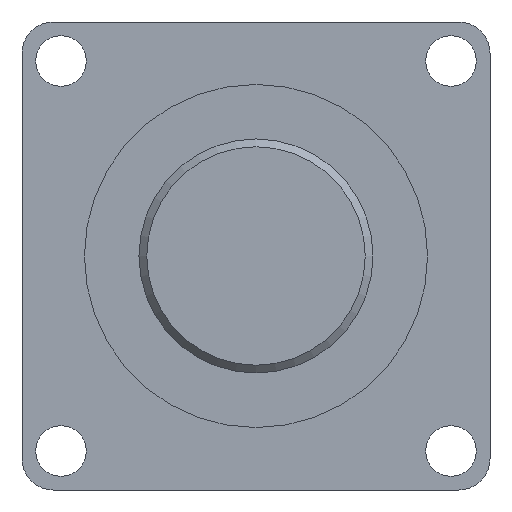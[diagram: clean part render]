
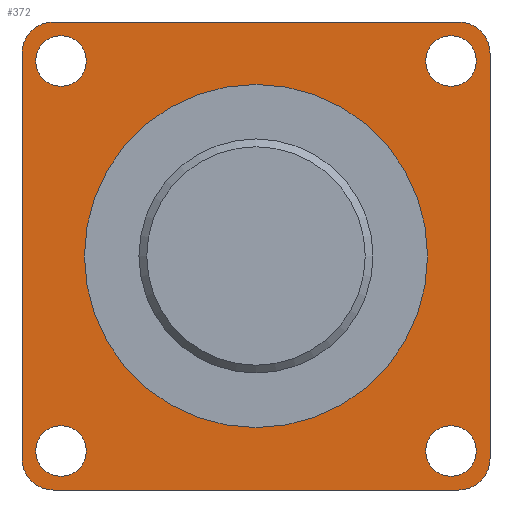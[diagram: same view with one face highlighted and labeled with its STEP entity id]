
A CAD part, front view. The second image highlights one B-rep face of the part: STEP entity #372.
In plain terms, the highlighted planar face has unit normal (0, -1, 0).
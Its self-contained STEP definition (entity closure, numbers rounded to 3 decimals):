
#16=FACE_BOUND('',#63,.T.);
#17=FACE_BOUND('',#64,.T.);
#18=FACE_BOUND('',#65,.T.);
#19=FACE_BOUND('',#66,.T.);
#20=FACE_BOUND('',#67,.T.);
#28=PLANE('',#420);
#39=FACE_OUTER_BOUND('',#62,.T.);
#62=EDGE_LOOP('',(#261,#262,#263,#264,#265,#266,#267,#268));
#63=EDGE_LOOP('',(#269));
#64=EDGE_LOOP('',(#270));
#65=EDGE_LOOP('',(#271));
#66=EDGE_LOOP('',(#272));
#67=EDGE_LOOP('',(#273));
#98=LINE('',#603,#123);
#99=LINE('',#607,#124);
#100=LINE('',#611,#125);
#101=LINE('',#614,#126);
#123=VECTOR('',#478,10.);
#124=VECTOR('',#481,10.);
#125=VECTOR('',#484,10.);
#126=VECTOR('',#487,10.);
#147=CIRCLE('',#419,2.);
#148=CIRCLE('',#421,2.);
#149=CIRCLE('',#422,2.);
#150=CIRCLE('',#423,2.);
#151=CIRCLE('',#424,1.621);
#152=CIRCLE('',#425,1.621);
#153=CIRCLE('',#426,1.621);
#154=CIRCLE('',#427,1.621);
#155=CIRCLE('',#428,11.);
#174=VERTEX_POINT('',#596);
#175=VERTEX_POINT('',#598);
#176=VERTEX_POINT('',#602);
#177=VERTEX_POINT('',#604);
#178=VERTEX_POINT('',#606);
#179=VERTEX_POINT('',#608);
#180=VERTEX_POINT('',#610);
#181=VERTEX_POINT('',#612);
#182=VERTEX_POINT('',#615);
#183=VERTEX_POINT('',#617);
#184=VERTEX_POINT('',#619);
#185=VERTEX_POINT('',#621);
#186=VERTEX_POINT('',#623);
#208=EDGE_CURVE('',#174,#175,#147,.T.);
#210=EDGE_CURVE('',#176,#174,#98,.T.);
#211=EDGE_CURVE('',#177,#176,#148,.T.);
#212=EDGE_CURVE('',#178,#177,#99,.T.);
#213=EDGE_CURVE('',#179,#178,#149,.T.);
#214=EDGE_CURVE('',#180,#179,#100,.T.);
#215=EDGE_CURVE('',#181,#180,#150,.T.);
#216=EDGE_CURVE('',#175,#181,#101,.T.);
#217=EDGE_CURVE('',#182,#182,#151,.T.);
#218=EDGE_CURVE('',#183,#183,#152,.T.);
#219=EDGE_CURVE('',#184,#184,#153,.T.);
#220=EDGE_CURVE('',#185,#185,#154,.T.);
#221=EDGE_CURVE('',#186,#186,#155,.T.);
#261=ORIENTED_EDGE('',*,*,#208,.F.);
#262=ORIENTED_EDGE('',*,*,#210,.F.);
#263=ORIENTED_EDGE('',*,*,#211,.F.);
#264=ORIENTED_EDGE('',*,*,#212,.F.);
#265=ORIENTED_EDGE('',*,*,#213,.F.);
#266=ORIENTED_EDGE('',*,*,#214,.F.);
#267=ORIENTED_EDGE('',*,*,#215,.F.);
#268=ORIENTED_EDGE('',*,*,#216,.F.);
#269=ORIENTED_EDGE('',*,*,#217,.T.);
#270=ORIENTED_EDGE('',*,*,#218,.T.);
#271=ORIENTED_EDGE('',*,*,#219,.T.);
#272=ORIENTED_EDGE('',*,*,#220,.T.);
#273=ORIENTED_EDGE('',*,*,#221,.T.);
#372=ADVANCED_FACE('',(#39,#16,#17,#18,#19,#20),#28,.F.);
#419=AXIS2_PLACEMENT_3D('',#599,#473,#474);
#420=AXIS2_PLACEMENT_3D('',#601,#476,#477);
#421=AXIS2_PLACEMENT_3D('',#605,#479,#480);
#422=AXIS2_PLACEMENT_3D('',#609,#482,#483);
#423=AXIS2_PLACEMENT_3D('',#613,#485,#486);
#424=AXIS2_PLACEMENT_3D('',#616,#488,#489);
#425=AXIS2_PLACEMENT_3D('',#618,#490,#491);
#426=AXIS2_PLACEMENT_3D('',#620,#492,#493);
#427=AXIS2_PLACEMENT_3D('',#622,#494,#495);
#428=AXIS2_PLACEMENT_3D('',#624,#496,#497);
#473=DIRECTION('center_axis',(0.,1.,0.));
#474=DIRECTION('ref_axis',(0.707,0.,-0.707));
#476=DIRECTION('center_axis',(0.,1.,0.));
#477=DIRECTION('ref_axis',(0.,0.,1.));
#478=DIRECTION('',(0.,0.,-1.));
#479=DIRECTION('center_axis',(0.,1.,0.));
#480=DIRECTION('ref_axis',(0.707,0.,0.707));
#481=DIRECTION('',(1.,0.,0.));
#482=DIRECTION('center_axis',(0.,1.,0.));
#483=DIRECTION('ref_axis',(-0.707,0.,0.707));
#484=DIRECTION('',(0.,0.,1.));
#485=DIRECTION('center_axis',(0.,1.,0.));
#486=DIRECTION('ref_axis',(-0.707,0.,-0.707));
#487=DIRECTION('',(-1.,0.,0.));
#488=DIRECTION('center_axis',(0.,1.,0.));
#489=DIRECTION('ref_axis',(1.,0.,0.));
#490=DIRECTION('center_axis',(0.,1.,0.));
#491=DIRECTION('ref_axis',(1.,0.,0.));
#492=DIRECTION('center_axis',(0.,1.,0.));
#493=DIRECTION('ref_axis',(1.,0.,0.));
#494=DIRECTION('center_axis',(0.,1.,0.));
#495=DIRECTION('ref_axis',(1.,0.,0.));
#496=DIRECTION('center_axis',(0.,1.,0.));
#497=DIRECTION('ref_axis',(1.,0.,0.));
#596=CARTESIAN_POINT('',(15.,12.5,-13.));
#598=CARTESIAN_POINT('',(13.,12.5,-15.));
#599=CARTESIAN_POINT('Origin',(13.,12.5,-13.));
#601=CARTESIAN_POINT('Origin',(0.,12.5,0.));
#602=CARTESIAN_POINT('',(15.,12.5,13.));
#603=CARTESIAN_POINT('',(15.,12.5,15.));
#604=CARTESIAN_POINT('',(13.,12.5,15.));
#605=CARTESIAN_POINT('Origin',(13.,12.5,13.));
#606=CARTESIAN_POINT('',(-13.,12.5,15.));
#607=CARTESIAN_POINT('',(-15.,12.5,15.));
#608=CARTESIAN_POINT('',(-15.,12.5,13.));
#609=CARTESIAN_POINT('Origin',(-13.,12.5,13.));
#610=CARTESIAN_POINT('',(-15.,12.5,-13.));
#611=CARTESIAN_POINT('',(-15.,12.5,-15.));
#612=CARTESIAN_POINT('',(-13.,12.5,-15.));
#613=CARTESIAN_POINT('Origin',(-13.,12.5,-13.));
#614=CARTESIAN_POINT('',(15.,12.5,-15.));
#615=CARTESIAN_POINT('',(10.879,12.5,12.5));
#616=CARTESIAN_POINT('Origin',(12.5,12.5,12.5));
#617=CARTESIAN_POINT('',(-14.121,12.5,-12.5));
#618=CARTESIAN_POINT('Origin',(-12.5,12.5,-12.5));
#619=CARTESIAN_POINT('',(10.879,12.5,-12.5));
#620=CARTESIAN_POINT('Origin',(12.5,12.5,-12.5));
#621=CARTESIAN_POINT('',(-14.121,12.5,12.5));
#622=CARTESIAN_POINT('Origin',(-12.5,12.5,12.5));
#623=CARTESIAN_POINT('',(-11.,12.5,0.));
#624=CARTESIAN_POINT('Origin',(0.,12.5,0.));
